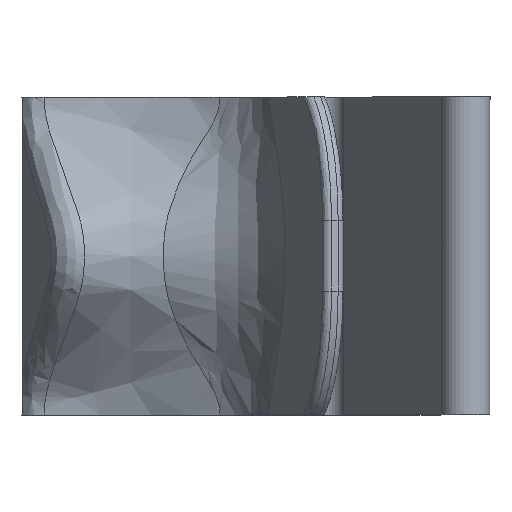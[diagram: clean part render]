
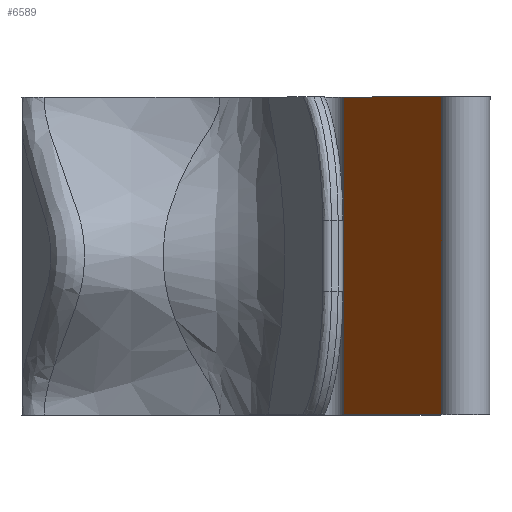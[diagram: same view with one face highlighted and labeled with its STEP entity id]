
A CAD part, top view. The second image highlights one B-rep face of the part: STEP entity #6589.
In plain terms, the highlighted planar face has unit normal (-0.952, 0, 0.305).
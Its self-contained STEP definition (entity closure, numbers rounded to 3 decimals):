
#1210=FACE_OUTER_BOUND('',#1579,.T.);
#1579=EDGE_LOOP('',(#6019,#6020,#6021,#6022));
#2007=LINE('',#13781,#2442);
#2019=LINE('',#13884,#2454);
#2021=LINE('',#13889,#2456);
#2022=LINE('',#13890,#2457);
#2442=VECTOR('',#7280,10.);
#2454=VECTOR('',#7314,10.);
#2456=VECTOR('',#7320,10.);
#2457=VECTOR('',#7321,10.);
#3094=VERTEX_POINT('',#13778);
#3095=VERTEX_POINT('',#13780);
#3118=VERTEX_POINT('',#13882);
#3119=VERTEX_POINT('',#13888);
#4070=EDGE_CURVE('',#3094,#3095,#2007,.T.);
#4096=EDGE_CURVE('',#3118,#3094,#2019,.T.);
#4098=EDGE_CURVE('',#3119,#3118,#2021,.T.);
#4099=EDGE_CURVE('',#3095,#3119,#2022,.T.);
#6019=ORIENTED_EDGE('',*,*,#4096,.F.);
#6020=ORIENTED_EDGE('',*,*,#4098,.F.);
#6021=ORIENTED_EDGE('',*,*,#4099,.F.);
#6022=ORIENTED_EDGE('',*,*,#4070,.F.);
#6258=PLANE('',#6718);
#6589=ADVANCED_FACE('',(#1210),#6258,.T.);
#6718=AXIS2_PLACEMENT_3D('',#13887,#7318,#7319);
#7280=DIRECTION('',(-0.305,0.,-0.952));
#7314=DIRECTION('',(0.,-1.,0.));
#7318=DIRECTION('center_axis',(-0.952,0.,0.305));
#7319=DIRECTION('ref_axis',(0.305,0.,0.952));
#7320=DIRECTION('',(0.305,0.,0.952));
#7321=DIRECTION('',(0.,1.,0.));
#13778=CARTESIAN_POINT('',(22.12,-22.5,76.987));
#13780=CARTESIAN_POINT('',(8.244,-22.5,33.711));
#13781=CARTESIAN_POINT('',(91.599,-22.5,293.674));
#13882=CARTESIAN_POINT('',(22.12,22.5,76.987));
#13884=CARTESIAN_POINT('',(22.12,0.,76.987));
#13887=CARTESIAN_POINT('Origin',(0.,0.,8.));
#13888=CARTESIAN_POINT('',(8.244,22.5,33.711));
#13889=CARTESIAN_POINT('',(33.148,22.5,111.381));
#13890=CARTESIAN_POINT('',(8.244,-11.25,33.711));
